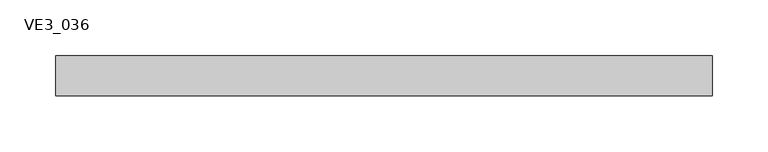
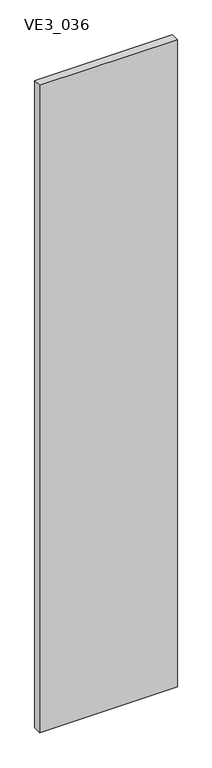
"""IFC4 building model written with IfcOpenShell, lengths in millimetres: plate geometry, TRP_CP_ARC_PF_RE_SE : VE3_036."""

from ifc_helpers import new_model, si_unit, frame, origin, place, context, project, spatial, polyline, outline, extrude, source, transform, mapped, element, save


def ve3_036_71a2fdf9(model_context):
    return source(origin(), model_context, "Body", "SweptSolid", [
        extrude(outline(polyline([(295.0, 18.0), (295.0, -18.0), (-295.0, -18.0), (-295.0, 18.0), (295.0, 18.0)])), frame((0.0, 0.0, -3.1739529), z_axis=(0.0, 0.0, 1.0), x_axis=(1.0, 0.0, 0.0)), (0.0, 0.0, 1.0), 2933.1739529),
    ])


if __name__ == "__main__":
    model = new_model("IFC4")
    model_context = context("Model", 3, world=origin())
    ifc_project = project(units=[si_unit("LENGTHUNIT", "METRE", prefix="MILLI")], contexts=[model_context])
    site = spatial("IfcSite", under=ifc_project)
    building = spatial("IfcBuilding", under=site)
    placement = place(None, origin())
    ve3_036_shape = ve3_036_71a2fdf9(model_context)
    element("IfcPlate", 1, ObjectType="TRP_CP_ARC_PF_RE_SE : VE3_036", at=placement, inside=building, context=model_context, shape_type="MappedRepresentation", body=[
        mapped(ve3_036_shape, transform((0.0, 0.0, 0.0), x_axis=(1.0, 0.0, 0.0), y_axis=(0.0, 1.0, 0.0), z_axis=(0.0, 0.0, 1.0))),
    ])
    save(model, "model.ifc")
